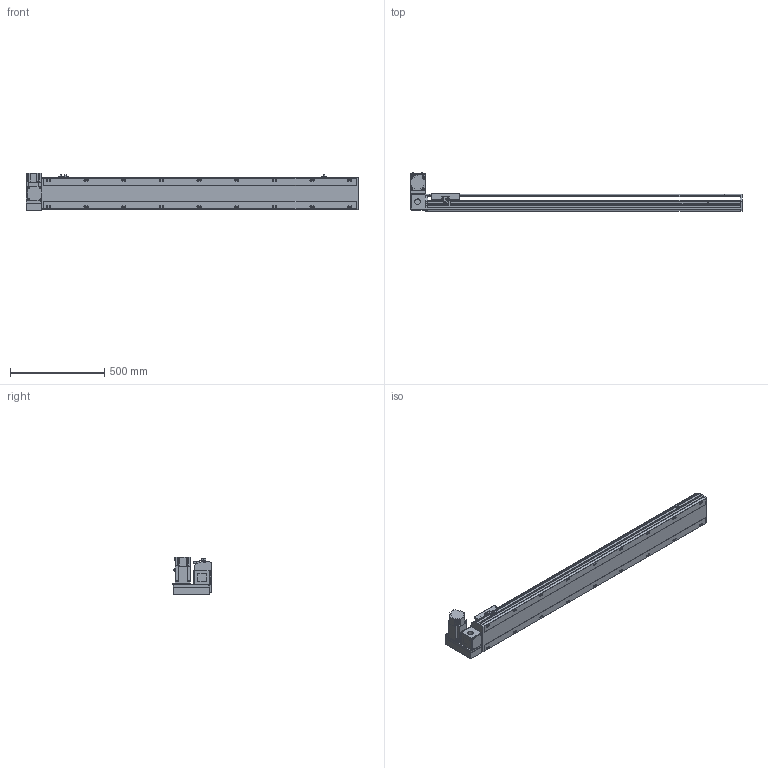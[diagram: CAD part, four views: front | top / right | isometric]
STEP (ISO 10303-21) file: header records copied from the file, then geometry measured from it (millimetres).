
FILE_DESCRIPTION( ( 'STEP AP214' ), '1' );
FILE_NAME( 'x:/temp/worker_4/temp/exporttempdir_2248_401_tclu2/format_0/PBS170-P40-S1400-LU-T75-C1-N(0).stp', '2022-06-07T08:15:52', ( 'License CC BY-ND 4.0' ), ( 'CADENAS' ), ' ', 'PARTsolutions', ' ' );
FILE_SCHEMA( ( 'AUTOMOTIVE_DESIGN { 1 0 10303 214 1 1 1 1 }' ) );
Length unit declared in the file: millimetre
Products named in the file (7): PBS170-P40-S1400-LU-T75-C1-N(0); _PBS170-S1400()_body; _PBS170T-LU_motors; _T75-p1; _PBS170_sliser; _PBS170_plant; _PBS170_sensor
Assembly tree (8 placements, depth 2):
  PBS170-P40-S1400-LU-T75-C1-N(0)
    _PBS170-S1400()_body
    _PBS170T-LU_motors
    _T75-p1
    _PBS170_sliser
    _PBS170_plant
    _PBS170_sensor  x3
Bounding box: 1763 x 206 x 197.3 mm (x, y, z)
Volume: 13842785.7 mm3; surface area: 1783161.1 mm2
Topology: 8 solids, 8 shells, 1098 faces, 2915 edges, 1900 vertices
Faces by surface type: plane 693, cylinder 347, cone 48, sphere 8, torus 2
Full cylindrical faces by diameter (mm): 3.242 x4, 4 x2, 4.4 x4, 4.5 x6, 4.917 x4, 6 x9, 6.647 x26, 7 x2, 7.5 x4, 8 x8, 8.5 x18, 10 x4, 10.5 x18, 11 x2, 30 x2, 40 x1, 70 x1
Entity records: 40382 total; most frequent: CARTESIAN_POINT 6389, DIRECTION 5370, ORIENTED_EDGE 5088, EDGE_CURVE 2544, AXIS2_PLACEMENT_3D 1867, VERTEX_POINT 1754, LINE 1636, VECTOR 1636
